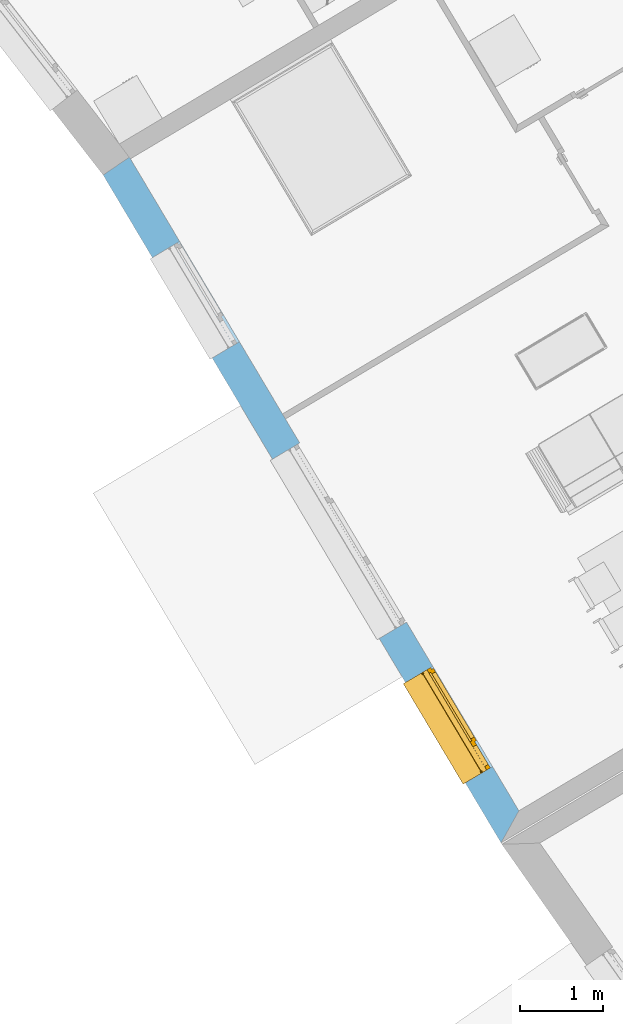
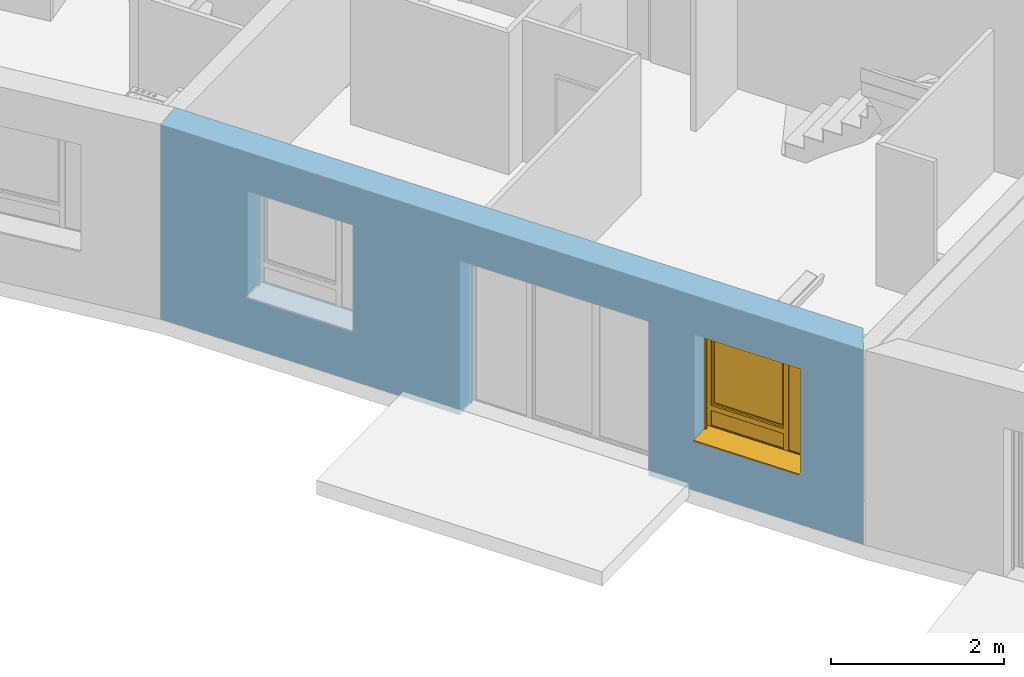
# One storey, part 38 of 195: 1 window, 3 openings, plus 1 element that does not belong to this part.
"""IFC2X3 building model written with IfcOpenShell, lengths in metres."""

from ifc_helpers import new_model, entity, si_unit, converted_unit, derived_unit, money_unit, direction, frame, origin_with_axes, place, context, subcontext, project, spatial, polyline, outline, extrude, open_shell, faceted_brep, surface_model, source, transform, mapped, material, layer, layer_set, layer_usage, type_object, element, fill, save


model = new_model("IFC2X3")

# Units and contexts
model_context = context("Model", 3, precision=1e-05, world=origin_with_axes(), true_north=direction((0.0, 1.0)))
body_context = subcontext(model_context, "Body", "Model", "MODEL_VIEW")
ifc_project = project(units=[si_unit("LENGTHUNIT", "METRE"), si_unit("AREAUNIT", "SQUARE_METRE"), si_unit("VOLUMEUNIT", "CUBIC_METRE"), converted_unit("PLANEANGLEUNIT", "DEGREE", entity("IfcPlaneAngleMeasure", 0.0174532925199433), si_unit("PLANEANGLEUNIT", "RADIAN"), dimensions=[0, 0, 0, 0, 0, 0, 0]), money_unit("CHF"), converted_unit("TIMEUNIT", "Year", entity("IfcTimeMeasure", 31557600.0), si_unit("TIMEUNIT", "SECOND"), dimensions=[0, 0, 1, 0, 0, 0, 0]), si_unit("MASSUNIT", "GRAM", prefix="KILO"), si_unit("THERMODYNAMICTEMPERATUREUNIT", "DEGREE_CELSIUS"), si_unit("LUMINOUSINTENSITYUNIT", "LUMEN"), si_unit("ENERGYUNIT", "JOULE", prefix="MEGA"), derived_unit("THERMALCONDUCTANCEUNIT", [(si_unit("POWERUNIT", "WATT"), 1), (si_unit("LENGTHUNIT", "METRE"), -1), (si_unit("THERMODYNAMICTEMPERATUREUNIT", "KELVIN"), -1)]), derived_unit("SPECIFICHEATCAPACITYUNIT", [(si_unit("ENERGYUNIT", "JOULE"), 1), (si_unit("MASSUNIT", "GRAM", prefix="KILO"), -1), (si_unit("THERMODYNAMICTEMPERATUREUNIT", "KELVIN"), -1)]), derived_unit("MASSDENSITYUNIT", [(si_unit("MASSUNIT", "GRAM", prefix="KILO"), 1), (si_unit("VOLUMEUNIT", "CUBIC_METRE"), -1)])], contexts=[model_context])

# Site, building, storey
site_placement = place(None, origin_with_axes())
site = spatial("IfcSite", under=ifc_project, at=site_placement, Name="Site", CompositionType="ELEMENT")
building_placement = place(site_placement, origin_with_axes())
building = spatial("IfcBuilding", under=site, at=building_placement, Name="Bâtiment", CompositionType="ELEMENT")
storey_placement = place(building_placement, origin_with_axes())
storey = spatial("IfcBuildingStorey", under=building, at=storey_placement, Name="rdc", CompositionType="ELEMENT", Elevation=0.0)

# Wall, openings, window
ifc_material_1 = material(Name="Parpaing 312445824")
ifc_layer_1 = layer(ifc_material_1, 0.22, ventilated="UNKNOWN")
ifc_material_2 = material(Name="Isolant styromousse 301821074")
ifc_layer_2 = layer(ifc_material_2, 0.16, ventilated="UNKNOWN")
ifc_layer_set = layer_set([ifc_layer_1, ifc_layer_2], Name="isol int 22+16 0836643197")
ifc_layer_usage = layer_usage(ifc_layer_set, "AXIS2", "NEGATIVE", 0.0)
wall_type = type_object("IfcWallType", Name="isol int 22+16 0836643197 380", PredefinedType="NOTDEFINED")
wall_placement = place(storey_placement, frame((9543.212814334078, -1055.206014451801, 57.7), z_axis=(0.0, 0.0, 1.0), x_axis=(-0.5118298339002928, 0.859086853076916, 0.0)))
wall = element("IfcWallStandardCase", 1, at=wall_placement, inside=storey, type_object=wall_type, material=ifc_layer_usage, Name="Mur-112", context=body_context, shape_type="SweptSolid", body=[
    extrude(outline(polyline([(0.2199999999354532, -0.3800000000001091), (9.335159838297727, -0.3799999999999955), (9.311906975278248, 0.0), (0.0, 0.0), (0.2199999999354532, -0.3800000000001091)])), origin_with_axes(), (0.0, 0.0, 1.0), 2.75),
])
opening_1_placement = place(wall_placement, frame((1.536079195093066, 0.0, 0.7000000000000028), z_axis=(0.0, 0.0, 1.0), x_axis=(1.0, 0.0, 0.0)))
opening_1 = element("IfcOpeningElement", 2, at=opening_1_placement, cuts=wall, Name="Fen-045", context=body_context, shape_type="Brep", body=[
    faceted_brep([(0.7000000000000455, -0.4800000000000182, 1.5), (-0.7000000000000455, -0.4800000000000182, 1.5), (-0.6999999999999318, -4.475503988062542, 1.5), (0.7000000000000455, -4.475503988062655, 1.5), (0.7000000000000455, -0.4800000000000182, 1.700000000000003), (-0.7000000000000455, -0.4800000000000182, 1.700000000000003), (-0.7000000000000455, -0.2999999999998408, 1.5), (-0.6999999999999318, -0.2999999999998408, 0.0), (-0.6999999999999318, -4.475503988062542, 0.0), (0.7000000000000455, -4.475503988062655, 0.0), (0.7000000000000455, -0.2999999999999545, 1.5), (0.7000000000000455, -0.3000000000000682, 0.0), (0.6999999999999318, -0.2200000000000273, 1.5), (0.6999999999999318, -0.2200000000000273, 1.700000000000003), (-0.7000000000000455, -0.2200000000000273, 1.700000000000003), (-0.7000000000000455, -0.2200000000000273, 1.5), (-0.7000000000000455, 4.095503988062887, 1.5), (-0.7000000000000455, 4.095503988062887, 0.0), (0.7000000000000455, 4.095503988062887, 0.0), (0.7000000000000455, 4.095503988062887, 1.5)], [[[0, 1, 2, 3]], [[1, 0, 4, 5]], [[1, 6, 7, 8, 2]], [[2, 8, 9, 3]], [[10, 0, 3, 9, 11]], [[0, 10, 12, 13, 4]], [[14, 5, 4, 13]], [[6, 1, 5, 14, 15]], [[6, 15, 16, 17, 7]], [[7, 11, 9, 8]], [[12, 10, 11, 18, 19]], [[12, 15, 14, 13]], [[15, 12, 19, 16]], [[19, 18, 17, 16]], [[11, 7, 17, 18]]]),
])
opening_2_placement = place(wall_placement, frame((7.460538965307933, 0.0, 0.7000000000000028), z_axis=(0.0, 0.0, 1.0), x_axis=(1.0, 0.0, 0.0)))
element("IfcOpeningElement", 3, at=opening_2_placement, cuts=wall, Name="Fen-045", context=body_context, shape_type="Brep", body=[
    faceted_brep([(0.7000000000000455, -0.4800000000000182, 1.5), (-0.6999999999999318, -0.4800000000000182, 1.5), (-0.6999999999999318, -4.475503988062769, 1.5), (0.7000000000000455, -4.475503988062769, 1.5), (0.7000000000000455, -0.4800000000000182, 1.700000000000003), (-0.6999999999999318, -0.4800000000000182, 1.700000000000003), (-0.6999999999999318, -0.2999999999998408, 1.5), (-0.6999999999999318, -0.2999999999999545, 0.0), (-0.6999999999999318, -4.475503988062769, 0.0), (0.7000000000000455, -4.475503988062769, 0.0), (0.7000000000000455, -0.2999999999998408, 1.5), (0.7000000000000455, -0.2999999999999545, 0.0), (0.6999999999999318, -0.2199999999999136, 1.5), (0.6999999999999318, -0.2199999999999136, 1.700000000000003), (-0.7000000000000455, -0.2200000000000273, 1.700000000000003), (-0.7000000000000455, -0.2200000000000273, 1.5), (-0.7000000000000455, 4.095503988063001, 1.5), (-0.7000000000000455, 4.095503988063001, 0.0), (0.7000000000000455, 4.095503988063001, 0.0), (0.7000000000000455, 4.095503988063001, 1.5)], [[[0, 1, 2, 3]], [[1, 0, 4, 5]], [[1, 6, 7, 8, 2]], [[2, 8, 9, 3]], [[10, 0, 3, 9, 11]], [[0, 10, 12, 13, 4]], [[14, 5, 4, 13]], [[6, 1, 5, 14, 15]], [[6, 15, 16, 17, 7]], [[7, 11, 9, 8]], [[12, 10, 11, 18, 19]], [[12, 15, 14, 13]], [[15, 12, 19, 16]], [[19, 18, 17, 16]], [[11, 7, 17, 18]]]),
])
opening_3_placement = place(wall_placement, frame((4.099942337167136, 0.0, 0.0), z_axis=(0.0, 0.0, 1.0), x_axis=(1.0, 0.0, 0.0)))
element("IfcOpeningElement", 4, at=opening_3_placement, cuts=wall, Name="Fen-045", context=body_context, shape_type="Brep", body=[
    faceted_brep([(1.250000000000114, -0.4800000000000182, 2.18), (-1.25, -0.4800000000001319, 2.18), (-1.25, -4.475503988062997, 2.18), (1.250000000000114, -4.475503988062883, 2.18), (1.250000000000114, -0.4800000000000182, 2.380000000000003), (-1.25, -0.4800000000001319, 2.380000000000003), (-1.25, -0.2999999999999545, 2.18), (-1.249999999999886, -0.3000000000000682, 0.0), (-1.25, -4.475503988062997, 0.0), (1.250000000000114, -4.475503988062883, 0.0), (1.250000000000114, -0.2999999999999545, 2.18), (1.250000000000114, -0.3000000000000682, 0.0), (1.25, -0.2200000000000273, 2.18), (1.25, -0.2200000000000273, 2.380000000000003), (-1.25, -0.2200000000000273, 2.380000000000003), (-1.25, -0.2200000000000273, 2.18), (-1.25, 4.095503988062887, 2.18), (-1.25, 4.095503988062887, 0.0), (1.25, 4.095503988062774, 0.0), (1.25, 4.095503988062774, 2.18)], [[[0, 1, 2, 3]], [[1, 0, 4, 5]], [[1, 6, 7, 8, 2]], [[2, 8, 9, 3]], [[10, 0, 3, 9, 11]], [[0, 10, 12, 13, 4]], [[4, 13, 14, 5]], [[6, 1, 5, 14, 15]], [[6, 15, 16, 17, 7]], [[7, 11, 9, 8]], [[12, 10, 11, 18, 19]], [[12, 15, 14, 13]], [[15, 12, 19, 16]], [[19, 18, 17, 16]], [[11, 7, 17, 18]]]),
])
window_style = type_object("IfcWindowStyle", Name="Fenêtre variable 27", ConstructionType="NOTDEFINED", OperationType="TRIPLE_PANEL_RIGHT", ParameterTakesPrecedence=False, Sizeable=False)
shared_shape = source(origin_with_axes(), body_context, "Body", "SurfaceModel", [
    surface_model("IfcShellBasedSurfaceModel", [(-0.7, -0.05100000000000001, 0.05), (-0.7, -0.05100000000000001, 0.04), (0.7, -0.05100000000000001, 0.04000000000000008), (0.7, -0.05100000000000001, 0.05000000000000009), (-0.7, -0.3799999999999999, 0.02899999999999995), (0.7, -0.3799999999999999, 0.02900000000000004), (-0.7, -0.3799999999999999, 0.008999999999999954), (0.7, -0.3799999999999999, 0.00900000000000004), (-0.7, -0.3699999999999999, 0.01899999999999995), (0.7, -0.3699999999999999, 0.01900000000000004)], [open_shell([[[0, 1, 2, 3]], [[1, 4, 5, 2]], [[4, 6, 7, 5]], [[6, 8, 9, 7]]])]),
    faceted_brep([(-0.7, -0.13, 1.7), (-0.697, -0.13, 1.7), (-0.697, 0.13, 1.7), (-0.7, 0.13, 1.7), (-0.7, -0.13, 1.5), (-0.697, -0.13, 1.5), (-0.697, 0.13, 1.5), (-0.7, 0.13, 1.5)], [[[0, 1, 2, 3]], [[4, 5, 1, 0]], [[1, 5, 6, 2]], [[3, 2, 6, 7]], [[0, 3, 7, 4]], [[7, 6, 5, 4]]]),
    faceted_brep([(0.6970000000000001, -0.1299999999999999, 1.7), (0.7000000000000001, -0.1299999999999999, 1.7), (0.7000000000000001, 0.1300000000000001, 1.7), (0.6970000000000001, 0.1300000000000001, 1.7), (0.6970000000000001, -0.1299999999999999, 1.5), (0.7000000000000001, -0.1299999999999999, 1.5), (0.7000000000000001, 0.1300000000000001, 1.5), (0.6970000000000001, 0.1300000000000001, 1.5)], [[[0, 1, 2, 3]], [[4, 5, 1, 0]], [[1, 5, 6, 2]], [[3, 2, 6, 7]], [[0, 3, 7, 4]], [[7, 6, 5, 4]]]),
    faceted_brep([(-0.697, -0.13, 1.5), (0.697, -0.1299999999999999, 1.5), (0.697, -0.1299999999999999, 1.7), (-0.697, -0.13, 1.7), (-0.697, -0.127, 1.5), (0.697, -0.1269999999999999, 1.5), (0.697, -0.1269999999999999, 1.697), (0.697, 0.1270000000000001, 1.697), (0.697, 0.1270000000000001, 1.503), (0.697, -0.1079999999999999, 1.503), (0.697, -0.1079999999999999, 1.5), (0.697, 0.1300000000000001, 1.5), (0.697, 0.1300000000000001, 1.7), (-0.697, 0.13, 1.7), (-0.697, 0.13, 1.5), (-0.697, -0.108, 1.5), (-0.697, -0.108, 1.503), (-0.697, 0.127, 1.503), (-0.697, 0.127, 1.697), (-0.697, -0.127, 1.697)], [[[0, 1, 2, 3]], [[4, 5, 1, 0]], [[1, 5, 6, 7, 8, 9, 10, 11, 12, 2]], [[3, 2, 12, 13]], [[0, 3, 13, 14, 15, 16, 17, 18, 19, 4]], [[19, 6, 5, 4]], [[18, 7, 6, 19]], [[17, 8, 7, 18]], [[16, 9, 8, 17]], [[15, 10, 9, 16]], [[14, 11, 10, 15]], [[13, 12, 11, 14]]]),
    faceted_brep([(-0.694, -0.08075423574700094, 1.585760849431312), (-0.694, -0.08200000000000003, 1.6), (-0.694, -0.0807542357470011, 1.614239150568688), (-0.694, -0.07705479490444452, 1.628045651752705), (-0.694, -0.07101408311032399, 1.641), (-0.694, -0.06281564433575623, 1.652708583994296), (-0.694, -0.05270858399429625, 1.662815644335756), (-0.694, -0.04100000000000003, 1.671014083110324), (-0.694, -0.02804565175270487, 1.677054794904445), (-0.694, -0.01423915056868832, 1.680754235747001), (-0.694, 0.0, 1.682), (-0.694, 0.01423915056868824, 1.680754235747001), (-0.694, 0.02804565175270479, 1.677054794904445), (-0.694, 0.04099999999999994, 1.671014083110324), (-0.694, 0.05270858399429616, 1.662815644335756), (-0.694, 0.06281564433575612, 1.652708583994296), (-0.694, 0.07101408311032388, 1.641), (-0.694, 0.0770547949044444, 1.628045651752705), (-0.694, 0.08075423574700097, 1.614239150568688), (-0.694, 0.0819999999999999, 1.6), (-0.694, 0.08075423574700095, 1.585760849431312), (-0.694, 0.07705479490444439, 1.571954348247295), (-0.694, 0.07101408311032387, 1.559), (-0.694, 0.06281564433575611, 1.547291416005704), (-0.694, 0.05270858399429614, 1.537184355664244), (-0.694, 0.04099999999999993, 1.528985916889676), (-0.694, 0.02804565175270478, 1.522945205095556), (-0.694, 0.01423915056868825, 1.519245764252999), (-0.694, 0.0, 1.518), (-0.694, -0.01423915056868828, 1.519245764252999), (-0.694, -0.02804565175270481, 1.522945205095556), (-0.694, -0.04099999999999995, 1.528985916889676), (-0.694, -0.05270858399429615, 1.537184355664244), (-0.694, -0.06281564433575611, 1.547291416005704), (-0.694, -0.07101408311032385, 1.559), (-0.694, -0.07705479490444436, 1.571954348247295), (0.694, -0.08075423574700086, 1.585760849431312), (0.694, -0.08199999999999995, 1.6), (0.694, -0.08075423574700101, 1.614239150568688), (0.694, -0.07705479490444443, 1.628045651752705), (0.694, -0.07101408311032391, 1.641), (0.694, -0.06281564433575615, 1.652708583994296), (0.694, -0.05270858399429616, 1.662815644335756), (0.694, -0.04099999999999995, 1.671014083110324), (0.694, -0.02804565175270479, 1.677054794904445), (0.694, -0.01423915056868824, 1.680754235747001), (0.694, 0.0, 1.682), (0.694, 0.01423915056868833, 1.680754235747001), (0.694, 0.02804565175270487, 1.677054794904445), (0.694, 0.04100000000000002, 1.671014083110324), (0.694, 0.05270858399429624, 1.662815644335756), (0.694, 0.0628156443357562, 1.652708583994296), (0.694, 0.07101408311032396, 1.641), (0.694, 0.07705479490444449, 1.628045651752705), (0.694, 0.08075423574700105, 1.614239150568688), (0.694, 0.08199999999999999, 1.6), (0.694, 0.08075423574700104, 1.585760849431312), (0.694, 0.07705479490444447, 1.571954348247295), (0.694, 0.07101408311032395, 1.559), (0.694, 0.06281564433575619, 1.547291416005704), (0.694, 0.05270858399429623, 1.537184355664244), (0.694, 0.04100000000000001, 1.528985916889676), (0.694, 0.02804565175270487, 1.522945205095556), (0.694, 0.01423915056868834, 1.519245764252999), (0.694, 0.0, 1.518), (0.694, -0.0142391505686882, 1.519245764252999), (0.694, -0.02804565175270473, 1.522945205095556), (0.694, -0.04099999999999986, 1.528985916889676), (0.694, -0.05270858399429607, 1.537184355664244), (0.694, -0.06281564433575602, 1.547291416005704), (0.694, -0.07101408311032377, 1.559), (0.694, -0.07705479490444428, 1.571954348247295)], [[[0, 1, 2, 3, 4, 5, 6, 7, 8, 9, 10, 11, 12, 13, 14, 15, 16, 17, 18, 19, 20, 21, 22, 23, 24, 25, 26, 27, 28, 29, 30, 31, 32, 33, 34, 35]], [[0, 36, 37, 1]], [[1, 37, 38, 2]], [[2, 38, 39, 3]], [[3, 39, 40, 4]], [[4, 40, 41, 5]], [[5, 41, 42, 6]], [[6, 42, 43, 7]], [[7, 43, 44, 8]], [[8, 44, 45, 9]], [[9, 45, 46, 10]], [[10, 46, 47, 11]], [[11, 47, 48, 12]], [[12, 48, 49, 13]], [[13, 49, 50, 14]], [[14, 50, 51, 15]], [[15, 51, 52, 16]], [[16, 52, 53, 17]], [[17, 53, 54, 18]], [[18, 54, 55, 19]], [[19, 55, 56, 20]], [[20, 56, 57, 21]], [[21, 57, 58, 22]], [[22, 58, 59, 23]], [[23, 59, 60, 24]], [[24, 60, 61, 25]], [[25, 61, 62, 26]], [[26, 62, 63, 27]], [[27, 63, 64, 28]], [[28, 64, 65, 29]], [[29, 65, 66, 30]], [[30, 66, 67, 31]], [[31, 67, 68, 32]], [[32, 68, 69, 33]], [[33, 69, 70, 34]], [[34, 70, 71, 35]], [[35, 71, 36, 0]], [[36, 71, 70, 69, 68, 67, 66, 65, 64, 63, 62, 61, 60, 59, 58, 57, 56, 55, 54, 53, 52, 51, 50, 49, 48, 47, 46, 45, 44, 43, 42, 41, 40, 39, 38, 37]]]),
    faceted_brep([(0.7, -0.105, 0.03), (0.7, -0.1049999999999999, 1.5), (0.7, -0.1299999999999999, 1.5), (0.7, -0.13, 0.03), (0.6749999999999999, -0.105, 0.03), (0.6749999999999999, -0.1049999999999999, 1.5), (0.6749999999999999, -0.1079999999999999, 1.5), (0.697, -0.1079999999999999, 1.5), (0.697, -0.1269999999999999, 1.5), (0.6749999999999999, -0.1269999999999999, 1.5), (0.6749999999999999, -0.1299999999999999, 1.5), (0.6749999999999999, -0.13, 0.03), (0.6749999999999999, -0.127, 0.03), (0.697, -0.127, 0.03), (0.697, -0.108, 0.03), (0.6749999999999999, -0.108, 0.03)], [[[0, 1, 2, 3]], [[4, 5, 1, 0]], [[1, 5, 6, 7, 8, 9, 10, 2]], [[3, 2, 10, 11]], [[0, 3, 11, 12, 13, 14, 15, 4]], [[15, 6, 5, 4]], [[14, 7, 6, 15]], [[13, 8, 7, 14]], [[12, 9, 8, 13]], [[11, 10, 9, 12]]]),
    faceted_brep([(-0.7, -0.105, 0.03), (-0.7, -0.13, 0.03), (-0.7, -0.1299999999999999, 1.5), (-0.7, -0.1049999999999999, 1.5), (-0.6749999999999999, -0.105, 0.03), (-0.6749999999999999, -0.108, 0.03), (-0.697, -0.108, 0.03), (-0.697, -0.127, 0.03), (-0.6749999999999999, -0.127, 0.03), (-0.6749999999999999, -0.13, 0.03), (-0.6749999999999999, -0.1299999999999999, 1.5), (-0.6749999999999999, -0.1269999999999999, 1.5), (-0.697, -0.1269999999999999, 1.5), (-0.697, -0.1079999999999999, 1.5), (-0.6749999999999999, -0.1079999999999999, 1.5), (-0.6749999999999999, -0.1049999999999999, 1.5)], [[[0, 1, 2, 3]], [[0, 4, 5, 6, 7, 8, 9, 1]], [[1, 9, 10, 2]], [[3, 2, 10, 11, 12, 13, 14, 15]], [[4, 0, 3, 15]], [[5, 4, 15, 14]], [[6, 5, 14, 13]], [[7, 6, 13, 12]], [[8, 7, 12, 11]], [[9, 8, 11, 10]]]),
    surface_model("IfcShellBasedSurfaceModel", [(-0.697, -0.115, 1.6), (0.697, -0.1149999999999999, 1.6), (0.697, -0.1199999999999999, 1.6), (-0.697, -0.12, 1.6), (-0.697, -0.115, 1.6), (-0.697, -0.12, 1.6), (0.697, -0.12, 1.6), (0.697, -0.1149999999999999, 1.6)], [open_shell([[[0, 1, 2, 3]], [[4, 5, 6, 7]]])]),
    faceted_brep([(-0.697, -0.115, 1.6), (0.697, -0.1149999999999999, 1.6), (0.697, -0.1166666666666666, 1.583333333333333), (-0.697, -0.1166666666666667, 1.583333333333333), (-0.697, -0.12, 1.6), (0.697, -0.1199999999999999, 1.6), (0.697, -0.1216666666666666, 1.583333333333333), (0.697, -0.1216666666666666, 1.566666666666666), (0.697, -0.1199999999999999, 1.55), (0.697, -0.1149999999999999, 1.55), (0.697, -0.1166666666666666, 1.566666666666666), (-0.697, -0.1166666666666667, 1.566666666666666), (-0.697, -0.115, 1.55), (-0.697, -0.12, 1.55), (-0.697, -0.1216666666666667, 1.566666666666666), (-0.697, -0.1216666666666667, 1.583333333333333)], [[[0, 1, 2, 3]], [[4, 5, 1, 0]], [[1, 5, 6, 7, 8, 9, 10, 2]], [[3, 2, 10, 11]], [[0, 3, 11, 12, 13, 14, 15, 4]], [[15, 6, 5, 4]], [[14, 7, 6, 15]], [[13, 8, 7, 14]], [[12, 9, 8, 13]], [[11, 10, 9, 12]]]),
    faceted_brep([(-0.697, -0.115, 1.55), (0.697, -0.1149999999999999, 1.55), (0.697, -0.1166666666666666, 1.533333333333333), (-0.697, -0.1166666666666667, 1.533333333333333), (-0.697, -0.12, 1.55), (0.697, -0.1199999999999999, 1.55), (0.697, -0.1216666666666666, 1.533333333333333), (0.697, -0.1216666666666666, 1.516666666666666), (0.697, -0.1199999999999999, 1.5), (0.697, -0.1149999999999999, 1.5), (0.697, -0.1166666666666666, 1.516666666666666), (-0.697, -0.1166666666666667, 1.516666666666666), (-0.697, -0.115, 1.5), (-0.697, -0.12, 1.5), (-0.697, -0.1216666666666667, 1.516666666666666), (-0.697, -0.1216666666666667, 1.533333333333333)], [[[0, 1, 2, 3]], [[4, 5, 1, 0]], [[1, 5, 6, 7, 8, 9, 10, 2]], [[3, 2, 10, 11]], [[0, 3, 11, 12, 13, 14, 15, 4]], [[15, 6, 5, 4]], [[14, 7, 6, 15]], [[13, 8, 7, 14]], [[12, 9, 8, 13]], [[11, 10, 9, 12]]]),
    faceted_brep([(-0.6749999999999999, 0.0, 1.45), (-0.7, 0.0, 1.45), (-0.7, -0.05000000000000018, 1.45), (-0.6499999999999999, -0.05000000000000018, 1.45), (-0.6499999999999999, -0.02500000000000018, 1.45), (-0.6749999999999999, -0.02500000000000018, 1.45), (-0.6749999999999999, 0.0, 0.3099999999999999), (-0.6499999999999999, 0.0, 0.3099999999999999), (-0.6499999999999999, 0.0, 0.265), (-0.6499999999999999, 0.0, 0.05000000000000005), (-0.7, 0.0, 0.05000000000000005), (-0.7, -0.05000000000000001, 0.05000000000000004), (-0.6499999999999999, -0.05000000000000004, 0.335), (-0.6499999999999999, -0.05000000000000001, 0.05000000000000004), (-0.6499999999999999, -0.05000000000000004, 0.265), (-0.6499999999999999, -0.02500000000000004, 0.335), (-0.6499999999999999, -0.02500000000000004, 0.3099999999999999), (-0.6749999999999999, -0.02500000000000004, 0.3099999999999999)], [[[0, 1, 2, 3, 4, 5]], [[6, 7, 8, 9, 10, 1, 0]], [[1, 10, 11, 2]], [[12, 3, 2, 11, 13, 14]], [[4, 3, 12, 15]], [[15, 16, 17, 5, 4]], [[5, 17, 6, 0]], [[6, 17, 16, 7]], [[16, 15, 12, 14, 8, 7]], [[9, 8, 14, 13]], [[10, 9, 13, 11]]]),
    faceted_brep([(0.3068894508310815, -0.02500000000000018, 1.45), (0.3068894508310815, -0.05000000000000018, 1.45), (0.3768894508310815, -0.05000000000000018, 1.45), (0.3768894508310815, 0.0, 1.45), (0.3318894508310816, 0.0, 1.45), (0.3318894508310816, -0.02500000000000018, 1.45), (0.3068894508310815, -0.02500000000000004, 0.335), (0.3068894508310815, -0.05000000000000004, 0.335), (0.3068894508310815, -0.05000000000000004, 0.265), (0.3068894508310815, -0.05000000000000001, 0.05000000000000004), (0.3768894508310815, -0.05000000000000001, 0.05000000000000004), (0.3768894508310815, 0.0, 0.05000000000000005), (0.3318894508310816, 0.0, 0.3099999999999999), (0.3068894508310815, 0.0, 0.05000000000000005), (0.3068894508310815, 0.0, 0.265), (0.3068894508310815, 0.0, 0.3099999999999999), (0.3318894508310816, -0.02500000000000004, 0.3099999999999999), (0.3068894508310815, -0.02500000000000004, 0.3099999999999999)], [[[0, 1, 2, 3, 4, 5]], [[6, 7, 1, 0]], [[8, 9, 10, 2, 1, 7]], [[11, 3, 2, 10]], [[12, 4, 3, 11, 13, 14, 15]], [[12, 16, 5, 4]], [[5, 16, 17, 6, 0]], [[17, 15, 14, 8, 7, 6]], [[14, 13, 9, 8]], [[13, 11, 10, 9]], [[15, 17, 16, 12]]]),
    faceted_brep([(-0.6499999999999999, -0.02500000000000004, 0.335), (-0.6499999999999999, -0.05000000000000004, 0.335), (0.3068894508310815, -0.05000000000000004, 0.335), (0.3068894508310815, -0.02500000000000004, 0.335), (-0.6499999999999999, -0.02500000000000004, 0.3099999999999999), (-0.6499999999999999, 0.0, 0.3099999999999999), (-0.6499999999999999, 0.0, 0.265), (-0.6499999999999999, -0.05000000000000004, 0.265), (0.3068894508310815, -0.05000000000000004, 0.265), (0.3068894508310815, -0.02500000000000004, 0.3099999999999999), (0.3068894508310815, 0.0, 0.265), (0.3068894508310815, 0.0, 0.3099999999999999)], [[[0, 1, 2, 3]], [[4, 5, 6, 7, 1, 0]], [[2, 1, 7, 8]], [[9, 3, 2, 8, 10, 11]], [[9, 4, 0, 3]], [[5, 4, 9, 11]], [[11, 10, 6, 5]], [[6, 10, 8, 7]]]),
    faceted_brep([(-0.6749999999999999, 0.0, 1.45), (-0.7, 0.0, 1.45), (-0.7, 0.0, 1.5), (0.7, 0.0, 1.5), (0.7, 0.0, 1.45), (0.6499999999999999, 0.0, 1.45), (0.3768894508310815, 0.0, 1.45), (0.3318894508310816, 0.0, 1.45), (0.3318894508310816, 0.0, 1.475), (-0.6749999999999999, 0.0, 1.475), (-0.6749999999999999, -0.02500000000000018, 1.45), (-0.6499999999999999, -0.02500000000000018, 1.45), (-0.6499999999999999, -0.05000000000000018, 1.45), (-0.7, -0.05000000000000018, 1.45), (-0.7, -0.05000000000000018, 1.5), (0.7, -0.05000000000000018, 1.5), (0.7, -0.05000000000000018, 1.45), (0.6499999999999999, -0.05000000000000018, 1.45), (0.3768894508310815, -0.05000000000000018, 1.45), (0.3318894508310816, -0.02500000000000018, 1.45), (0.3068894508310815, -0.05000000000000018, 1.45), (0.3068894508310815, -0.02500000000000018, 1.45), (0.3318894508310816, -0.02500000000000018, 1.475), (-0.6749999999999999, -0.02500000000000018, 1.475)], [[[0, 1, 2, 3, 4, 5, 6, 7, 8, 9]], [[10, 11, 12, 13, 1, 0]], [[2, 1, 13, 14]], [[3, 2, 14, 15]], [[4, 3, 15, 16]], [[5, 4, 16, 17]], [[6, 5, 17, 18]], [[19, 7, 6, 18, 20, 21]], [[7, 19, 22, 8]], [[8, 22, 23, 9]], [[9, 23, 10, 0]], [[21, 11, 10, 23, 22, 19]], [[21, 20, 12, 11]], [[18, 17, 16, 15, 14, 13, 12, 20]]]),
    faceted_brep([(0.6499999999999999, -0.05000000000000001, 0.05), (0.6499999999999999, 0.0, 0.05000000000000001), (0.7, 0.0, 0.05000000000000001), (0.7, -0.05000000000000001, 0.05), (0.6499999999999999, -0.05000000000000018, 1.45), (0.6499999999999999, 0.0, 1.45), (0.7, 0.0, 1.45), (0.7, -0.05000000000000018, 1.45)], [[[0, 1, 2, 3]], [[4, 5, 1, 0]], [[1, 5, 6, 2]], [[3, 2, 6, 7]], [[0, 3, 7, 4]], [[7, 6, 5, 4]]]),
    faceted_brep([(-0.6499999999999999, -0.05000000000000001, 0.05), (-0.6499999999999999, 0.0, 0.05000000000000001), (-0.7, 0.0, 0.05000000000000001), (-0.7, -0.05000000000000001, 0.05), (0.3068894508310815, -0.05000000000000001, 0.05), (0.3068894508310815, 0.0, 0.05000000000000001), (0.3768894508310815, 0.0, 0.05000000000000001), (0.6499999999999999, 0.0, 0.05000000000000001), (0.7, 0.0, 0.05000000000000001), (0.7, 0.0, 0.0), (-0.7, 0.0, 0.0), (-0.7, -0.05, 0.0), (0.7, -0.05, 0.0), (0.7, -0.05000000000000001, 0.05), (0.6499999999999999, -0.05000000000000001, 0.05), (0.3768894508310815, -0.05000000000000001, 0.05)], [[[0, 1, 2, 3]], [[4, 5, 1, 0]], [[1, 5, 6, 7, 8, 9, 10, 2]], [[3, 2, 10, 11]], [[0, 3, 11, 12, 13, 14, 15, 4]], [[15, 6, 5, 4]], [[14, 7, 6, 15]], [[13, 8, 7, 14]], [[12, 9, 8, 13]], [[11, 10, 9, 12]]]),
    faceted_brep([(-0.625, -0.02500000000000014, 1.425), (-0.625, 0.02499999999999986, 1.425), (-0.6749999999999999, 0.02499999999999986, 1.425), (-0.6749999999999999, -0.02500000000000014, 1.425), (-0.625, -0.02500000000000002, 0.3599999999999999), (-0.625, 0.02499999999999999, 0.3599999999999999), (-0.6749999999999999, 0.02499999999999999, 0.3599999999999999), (-0.6749999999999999, -0.02500000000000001, 0.3599999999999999)], [[[0, 1, 2, 3]], [[4, 5, 1, 0]], [[1, 5, 6, 2]], [[3, 2, 6, 7]], [[0, 3, 7, 4]], [[7, 6, 5, 4]]]),
    faceted_brep([(0.2818894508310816, -0.02500000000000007, 0.3599999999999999), (0.2818894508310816, 0.02499999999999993, 0.3599999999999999), (0.3318894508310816, 0.02499999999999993, 0.3599999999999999), (0.3318894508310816, -0.02500000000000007, 0.3599999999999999), (0.2818894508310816, -0.0250000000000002, 1.425), (0.2818894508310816, 0.0249999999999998, 1.425), (0.3318894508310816, 0.0249999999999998, 1.425), (0.3318894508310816, -0.0250000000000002, 1.425)], [[[0, 1, 2, 3]], [[4, 5, 1, 0]], [[1, 5, 6, 2]], [[3, 2, 6, 7]], [[0, 3, 7, 4]], [[7, 6, 5, 4]]]),
    faceted_brep([(0.3318894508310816, -0.02500000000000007, 0.3099999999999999), (0.3318894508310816, 0.02499999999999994, 0.3099999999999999), (0.3318894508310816, 0.02499999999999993, 0.3599999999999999), (0.3318894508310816, -0.02500000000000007, 0.3599999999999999), (-0.6749999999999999, -0.025, 0.3099999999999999), (-0.6749999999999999, 0.02499999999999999, 0.3099999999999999), (-0.6749999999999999, 0.02499999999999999, 0.3599999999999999), (-0.625, 0.02499999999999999, 0.3599999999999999), (0.2818894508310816, 0.02499999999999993, 0.3599999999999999), (0.2818894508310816, -0.02500000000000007, 0.3599999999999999), (-0.625, -0.02500000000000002, 0.3599999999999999), (-0.6749999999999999, -0.02500000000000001, 0.3599999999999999)], [[[0, 1, 2, 3]], [[4, 5, 1, 0]], [[1, 5, 6, 7, 8, 2]], [[3, 2, 8, 9]], [[0, 3, 9, 10, 11, 4]], [[11, 6, 5, 4]], [[10, 7, 6, 11]], [[9, 8, 7, 10]]]),
    faceted_brep([(-0.6749999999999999, -0.02500000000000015, 1.475), (-0.6749999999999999, 0.02499999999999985, 1.475), (-0.6749999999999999, 0.02499999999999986, 1.425), (-0.6749999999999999, -0.02500000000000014, 1.425), (0.3318894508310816, -0.02500000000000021, 1.475), (0.3318894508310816, 0.02499999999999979, 1.475), (0.3318894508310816, 0.0249999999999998, 1.425), (0.2818894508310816, 0.0249999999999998, 1.425), (-0.625, 0.02499999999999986, 1.425), (-0.625, -0.02500000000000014, 1.425), (0.2818894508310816, -0.0250000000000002, 1.425), (0.3318894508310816, -0.0250000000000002, 1.425)], [[[0, 1, 2, 3]], [[4, 5, 1, 0]], [[1, 5, 6, 7, 8, 2]], [[3, 2, 8, 9]], [[0, 3, 9, 10, 11, 4]], [[11, 6, 5, 4]], [[10, 7, 6, 11]], [[9, 8, 7, 10]]]),
    surface_model("IfcShellBasedSurfaceModel", [(-0.625, -0.01000000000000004, 0.3599999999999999), (0.2818894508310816, -0.01000000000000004, 0.3599999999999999), (0.2818894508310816, -0.01000000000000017, 1.425), (-0.625, -0.01000000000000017, 1.425)], [open_shell([[[0, 1, 2, 3]]])]),
    surface_model("IfcShellBasedSurfaceModel", [(-0.625, 0.009999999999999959, 0.3599999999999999), (-0.625, 0.00999999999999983, 1.425), (0.2818894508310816, 0.00999999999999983, 1.425), (0.2818894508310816, 0.009999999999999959, 0.3599999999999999)], [open_shell([[[0, 1, 2, 3]]])]),
    surface_model("IfcShellBasedSurfaceModel", [(0.3768894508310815, -0.035, 0.05), (0.65, -0.035, 0.05), (0.65, -0.03500000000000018, 1.45), (0.3768894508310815, -0.03500000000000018, 1.45)], [open_shell([[[0, 1, 2, 3]]])]),
    surface_model("IfcShellBasedSurfaceModel", [(0.3768894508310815, -0.015, 0.05), (0.3768894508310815, -0.01500000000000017, 1.45), (0.65, -0.01500000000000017, 1.45), (0.65, -0.015, 0.05)], [open_shell([[[0, 1, 2, 3]]])]),
    surface_model("IfcShellBasedSurfaceModel", [(-0.6499999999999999, -0.035, 0.05), (0.3068894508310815, -0.035, 0.05), (0.3068894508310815, -0.03500000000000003, 0.265), (-0.6499999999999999, -0.03500000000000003, 0.265)], [open_shell([[[0, 1, 2, 3]]])]),
    surface_model("IfcShellBasedSurfaceModel", [(-0.6499999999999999, -0.015, 0.05), (-0.6499999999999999, -0.01500000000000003, 0.265), (0.3068894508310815, -0.01500000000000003, 0.265), (0.3068894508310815, -0.015, 0.05)], [open_shell([[[0, 1, 2, 3]]])]),
])
window_placement = place(opening_1_placement, frame((0.7000000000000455, 0.0, 0.0), z_axis=(0.0, 0.0, 1.0), x_axis=(-1.0, 0.0, 0.0)))
window = element("IfcWindow", 5, at=window_placement, inside=storey, type_object=window_style, Name="Fen-045", OverallHeight=1.5, OverallWidth=1.4, context=body_context, shape_type="MappedRepresentation", body=[
    mapped(shared_shape, transform((0.7000000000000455, 0.3500000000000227, 0.0))),
])
fill(opening_1, window)

save(model, "model.ifc")
